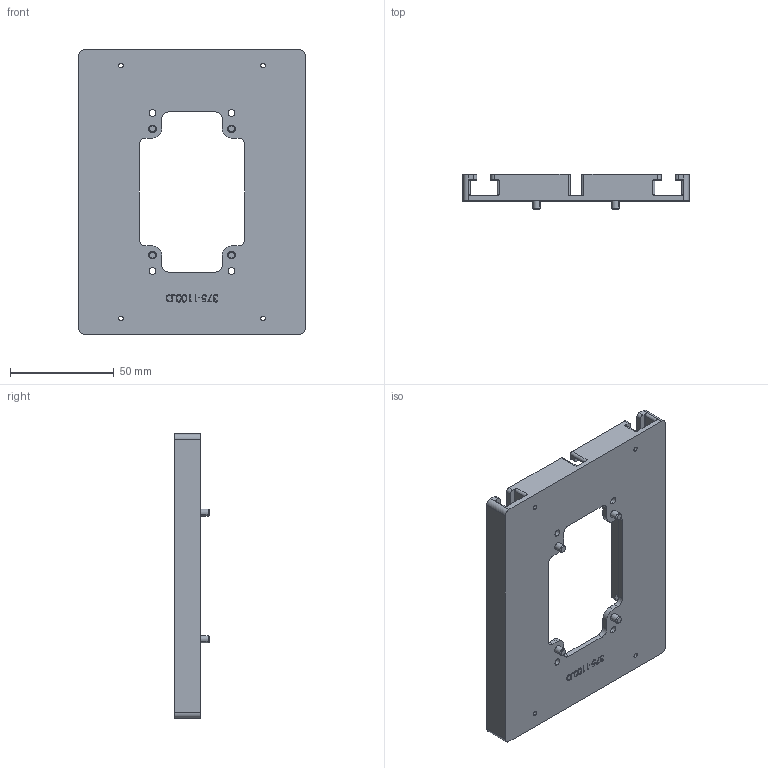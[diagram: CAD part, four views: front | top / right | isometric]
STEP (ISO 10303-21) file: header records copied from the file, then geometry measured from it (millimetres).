
FILE_DESCRIPTION (( 'STEP AP214' ), '1' );
FILE_NAME ('200-TRAY.STEP', '2021-08-27T17:28:48', ( '' ), ( '' ), 'SwSTEP 2.0', 'SolidWorks 2020', '' );
FILE_SCHEMA (( 'AUTOMOTIVE_DESIGN' ));
Length unit declared in the file: inch
Products named in the file (1): 200-TRAY
Bounding box: 109.22 x 16.76 x 137.16 mm (x, y, z)
Volume: 63097 mm3; surface area: 41933.2 mm2
Topology: 5 solids, 5 shells, 469 faces, 1236 edges, 792 vertices
Faces by surface type: plane 182, cylinder 124, cone 60, torus 52, bspline 51
Entity records: 24025 total; most frequent: CARTESIAN_POINT 6485, ORIENTED_EDGE 2456, DIRECTION 2244, EDGE_CURVE 1228, AXIS2_PLACEMENT_3D 827, VERTEX_POINT 792, VECTOR 590, LINE 590
